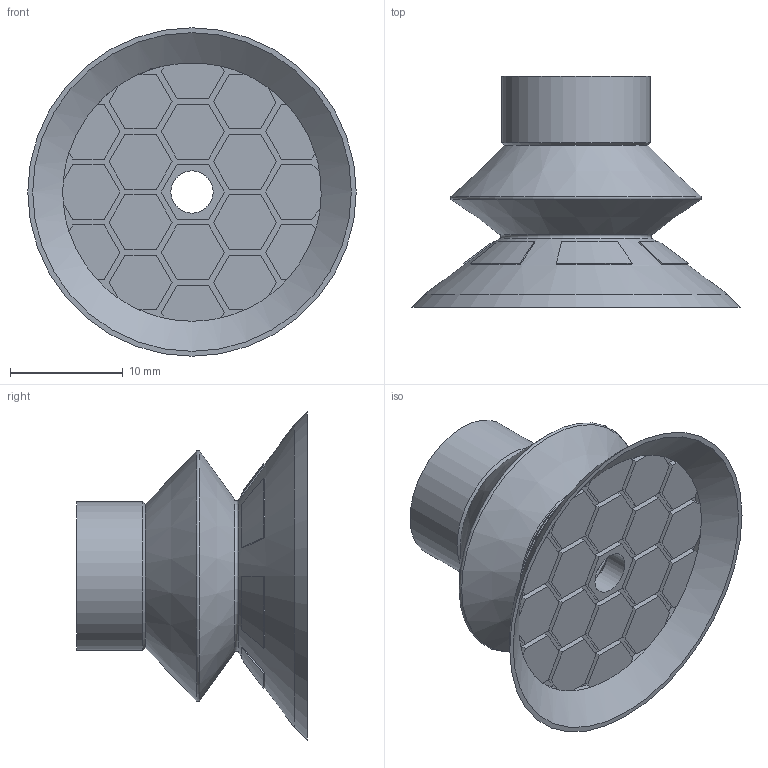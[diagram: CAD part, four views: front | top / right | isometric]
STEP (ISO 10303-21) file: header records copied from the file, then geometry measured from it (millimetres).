
FILE_DESCRIPTION (( 'STEP AP214' ), '1' );
FILE_NAME ('15B.030.017.STEP', '2026-01-09T19:21:24', ( '' ), ( '' ), 'SwSTEP 2.0', 'SolidWorks 2025', '' );
FILE_SCHEMA (( 'AUTOMOTIVE_DESIGN' ));
Length unit declared in the file: millimetre
Products named in the file (1): 15B.030.017
Bounding box: 29.16 x 20.5 x 29.16 mm (x, y, z)
Volume: 2414.4 mm3; surface area: 3485.8 mm2
Topology: 1 solids, 1 shells, 199 faces, 509 edges, 328 vertices
Faces by surface type: plane 151, cone 28, cylinder 17, torus 3
Full cylindrical faces by diameter (mm): 3.75 x1, 8.7 x2, 10.5 x1, 13.2 x1
Entity records: 5801 total; most frequent: CARTESIAN_POINT 1014, ORIENTED_EDGE 966, DIRECTION 964, EDGE_CURVE 483, LINE 394, VECTOR 394, VERTEX_POINT 319, AXIS2_PLACEMENT_3D 285
